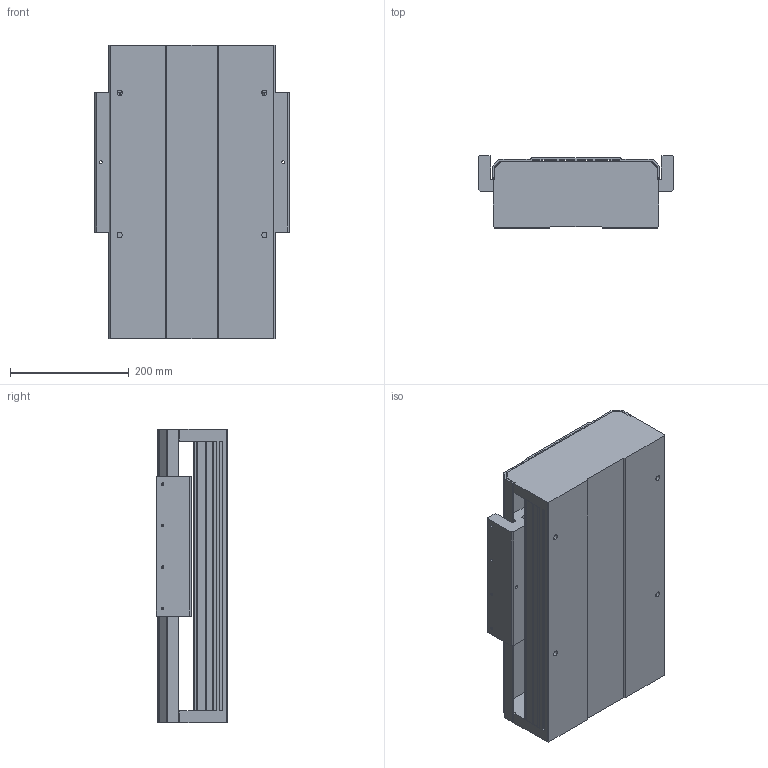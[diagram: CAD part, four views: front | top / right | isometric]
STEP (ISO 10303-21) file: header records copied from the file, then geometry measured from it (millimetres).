
FILE_DESCRIPTION (( 'STEP AP203' ), '1' );
FILE_NAME ('RF28-5-1-S.STEP', '2008-11-20T08:46:45', ( 'user' ), ( 'Robostar' ), 'SwSTEP 2.0', 'SolidWorks 2007', '' );
FILE_SCHEMA (( 'CONFIG_CONTROL_DESIGN' ));
Length unit declared in the file: millimetre
Products named in the file (1): RF28-5-1-S
Bounding box: 328 x 121 x 495 mm (x, y, z)
Volume: 6754624.8 mm3; surface area: 1358856.4 mm2
Topology: 3 solids, 6 shells, 472 faces, 1358 edges, 878 vertices
Faces by surface type: plane 284, cylinder 152, cone 36
Entity records: 15499 total; most frequent: CARTESIAN_POINT 2967, ORIENTED_EDGE 2652, DIRECTION 2560, EDGE_CURVE 1326, VECTOR 966, LINE 966, VERTEX_POINT 878, AXIS2_PLACEMENT_3D 797
